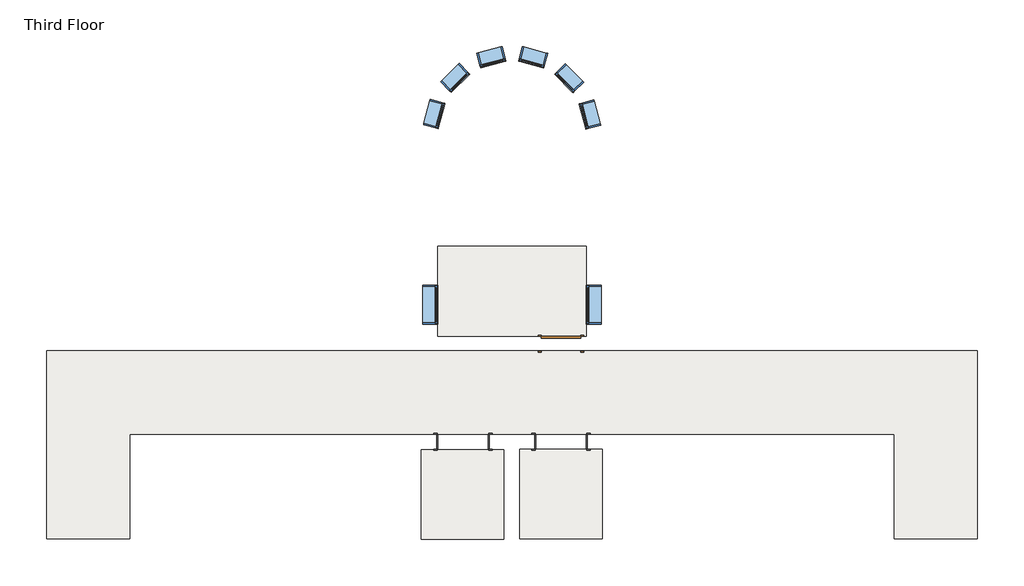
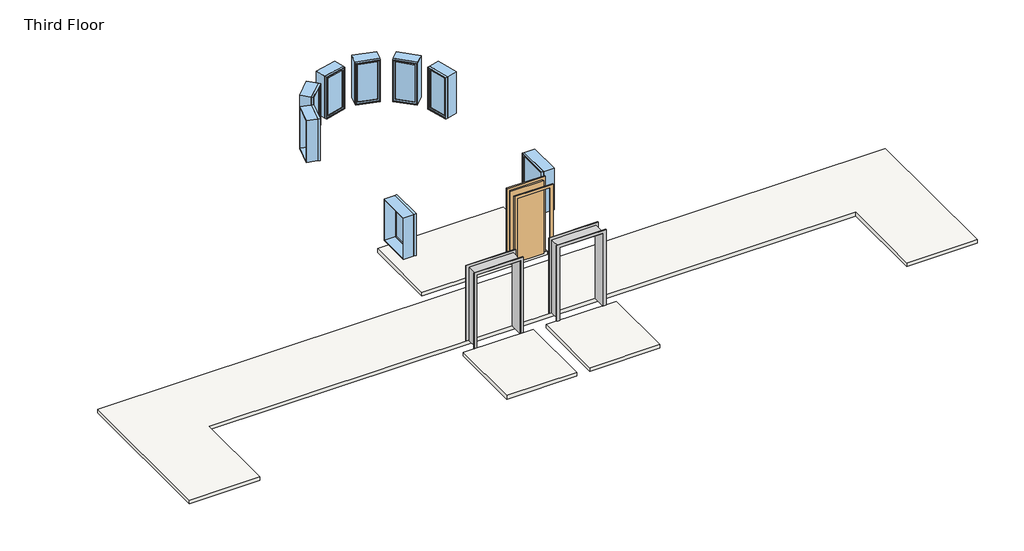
# One storey: 8 windows, 2 proxies, 1 door, 1 slab.
"""IFC4 building model written with IfcOpenShell, lengths in millimetres."""

import ifcopenshell
import ifcopenshell.guid

model = None  # the IFC model being written
_history = None  # IfcOwnerHistory: only IFC2X3 demands one
_inside = {}  # id of a spatial element -> (the spatial element, [elements in it])
_under = {}  # id of a project, library or spatial element -> (it, [spatial elements below it])
_declared = {}  # id of a project -> (the project, [libraries it declares])
_typed = {}  # id of a type object -> (the type object, [elements of that type])
_made_of = {}  # id of a material, layer set ... -> (it, [elements and type objects made of it])


def new_model(schema):
    """Start an empty IFC model of exactly this schema.

    Asked for "IFC4X3", IfcOpenShell would pick the latest addendum, in which some entities
    have other attributes; the version numbers below select the first issue.
    IFC2X3 requires an IfcOwnerHistory on every rooted entity: one is made here for all.
    """
    global model, _history
    if schema == "IFC4X3":
        model = ifcopenshell.file(schema_version=(4, 3, 0, 0))
    else:
        model = ifcopenshell.file(schema=schema)
    _inside.clear()
    _under.clear()
    _declared.clear()
    _typed.clear()
    _made_of.clear()
    _history = None
    if model.schema == "IFC2X3":
        org = make("IfcOrganization", Name="unknown")
        user = make(
            "IfcPersonAndOrganization",
            ThePerson=make("IfcPerson", FamilyName="unknown"),
            TheOrganization=org,
        )
        app = make(
            "IfcApplication",
            ApplicationDeveloper=org,
            Version="unknown",
            ApplicationFullName="unknown",
            ApplicationIdentifier="unknown",
        )
        _history = make(
            "IfcOwnerHistory",
            OwningUser=user,
            OwningApplication=app,
            ChangeAction="ADDED",
            CreationDate=0,
        )
    return model


def make(cls, **values):
    """One entity of the class cls with the attributes given. An attribute that is None is left unset."""
    return model.create_entity(
        cls, **{name: value for name, value in values.items() if value is not None}
    )


def rooted(cls, **values):
    """An entity with a GlobalId (a new one), such as an element, a storey or a relation."""
    return make(cls, GlobalId=ifcopenshell.guid.new(), OwnerHistory=_history, **values)


def si_unit(unit_type, name, prefix=None):
    """IfcSIUnit, for example si_unit("LENGTHUNIT", "METRE", prefix="MILLI")."""
    return make("IfcSIUnit", UnitType=unit_type, Prefix=prefix, Name=name)


def assignment(units):
    """IfcUnitAssignment: the units of a project."""
    return None if units is None else make("IfcUnitAssignment", Units=units)


def point(xyz):
    """IfcCartesianPoint."""
    return None if xyz is None else make("IfcCartesianPoint", Coordinates=xyz)


def direction(xyz):
    """IfcDirection."""
    return None if xyz is None else make("IfcDirection", DirectionRatios=xyz)


def frame(location, z_axis=None, x_axis=None):
    """IfcAxis2Placement3D, a coordinate frame: its origin and axes. An axis left out is left unset."""
    return make(
        "IfcAxis2Placement3D",
        Location=point(location),
        Axis=direction(z_axis),
        RefDirection=direction(x_axis),
    )


def origin():
    """The frame at (0, 0, 0) with its axes left unset."""
    return frame((0.0, 0.0, 0.0))


def origin_with_axes():
    """The frame at (0, 0, 0) with the z axis (0, 0, 1) and the x axis (1, 0, 0) written out."""
    return frame((0.0, 0.0, 0.0), z_axis=(0.0, 0.0, 1.0), x_axis=(1.0, 0.0, 0.0))


def place(relative_to, where):
    """IfcLocalPlacement: puts the frame where relative to a parent placement (None: the world)."""
    return make(
        "IfcLocalPlacement", PlacementRelTo=relative_to, RelativePlacement=where
    )


def context(
    kind, dimensions, precision=None, world=None, true_north=None, identifier=None
):
    """IfcGeometricRepresentationContext, for example the 3D "Model" context."""
    return make(
        "IfcGeometricRepresentationContext",
        ContextIdentifier=identifier,
        ContextType=kind,
        CoordinateSpaceDimension=dimensions,
        Precision=precision,
        WorldCoordinateSystem=world,
        TrueNorth=true_north,
    )


def project(units=None, contexts=None):
    """IfcProject with its units and contexts."""
    return rooted(
        "IfcProject",
        Name="project",
        RepresentationContexts=contexts,
        UnitsInContext=assignment(units),
    )


def spatial(cls, under=None, at=None, **own):
    """A site, building, storey or space (cls), placed at a placement, below another one or the project."""
    s = rooted(cls, ObjectPlacement=at, **own)
    if under is not None:
        _under.setdefault(under.id(), (under, []))[1].append(s)
    return s


def polyline(points):
    """IfcPolyline through the points."""
    return make("IfcPolyline", Points=[point(p) for p in points])


def outline(outer, holes=None, kind="AREA"):
    """IfcArbitraryClosedProfileDef: a profile drawn as a closed curve; with holes, ...WithVoids."""
    if holes is None:
        return make("IfcArbitraryClosedProfileDef", ProfileType=kind, OuterCurve=outer)
    return make(
        "IfcArbitraryProfileDefWithVoids",
        ProfileType=kind,
        OuterCurve=outer,
        InnerCurves=holes,
    )


def extrude(swept, where, along, depth):
    """IfcExtrudedAreaSolid: the profile swept, set in the frame where, extruded along a direction by depth."""
    return make(
        "IfcExtrudedAreaSolid",
        SweptArea=swept,
        Position=where,
        ExtrudedDirection=direction(along),
        Depth=depth,
    )


def faces_of(points, faces, orient=None, outer=None):
    """IfcFace entities. A face is a list of loops; a loop is a list of indices into points, from 0.

    orient and outer hold one flag for each loop. By default every Orientation is true, the
    first loop of a face is its IfcFaceOuterBound and the others are IfcFaceBound.
    """
    made = []
    for i, loops in enumerate(faces):
        bounds = []
        for j, loop in enumerate(loops):
            is_outer = j == 0 if outer is None else outer[i][j]
            bounds.append(
                make(
                    "IfcFaceOuterBound" if is_outer else "IfcFaceBound",
                    Bound=make("IfcPolyLoop", Polygon=[points[k] for k in loop]),
                    Orientation=True if orient is None else orient[i][j],
                )
            )
        made.append(make("IfcFace", Bounds=bounds))
    return made


def faceted_brep(points, faces, orient=None, outer=None, voids=None):
    """IfcFacetedBrep: a solid bounded by flat faces; with voids (closed shells), ...WithVoids."""
    shared = [point(p) for p in points]
    hull = make("IfcClosedShell", CfsFaces=faces_of(shared, faces, orient, outer))
    if voids is None:
        return make("IfcFacetedBrep", Outer=hull)
    return make(
        "IfcFacetedBrepWithVoids",
        Outer=hull,
        Voids=[
            make(cls, CfsFaces=faces_of(shared, fs, o, b)) for cls, fs, o, b in voids
        ],
    )


def shape(context_of_items, identifier, shape_type, items):
    """IfcShapeRepresentation: the items that make up one representation, for example the "Body"."""
    return make(
        "IfcShapeRepresentation",
        ContextOfItems=context_of_items,
        RepresentationIdentifier=identifier,
        RepresentationType=shape_type,
        Items=items,
    )


def source(mapping_origin, context_of_items, identifier, shape_type, items):
    """IfcRepresentationMap: a shape defined once, which mapped items show again and again."""
    return make(
        "IfcRepresentationMap",
        MappingOrigin=mapping_origin,
        MappedRepresentation=shape(context_of_items, identifier, shape_type, items),
    )


def transform(
    local_origin,
    x_axis=None,
    y_axis=None,
    z_axis=None,
    scale=None,
    scale2=None,
    scale3=None,
    uniform=True,
):
    """IfcCartesianTransformationOperator3D, or its non-uniform kind. x_axis, y_axis, z_axis: its Axis1, 2, 3."""
    if uniform:
        return make(
            "IfcCartesianTransformationOperator3D",
            Axis1=direction(x_axis),
            Axis2=direction(y_axis),
            LocalOrigin=point(local_origin),
            Scale=scale,
            Axis3=direction(z_axis),
        )
    return make(
        "IfcCartesianTransformationOperator3DnonUniform",
        Axis1=direction(x_axis),
        Axis2=direction(y_axis),
        LocalOrigin=point(local_origin),
        Scale=scale,
        Axis3=direction(z_axis),
        Scale2=scale2,
        Scale3=scale3,
    )


def mapped(mapping_source, mapping_target):
    """IfcMappedItem: shows the shape of a source again, moved by a transform."""
    return make(
        "IfcMappedItem", MappingSource=mapping_source, MappingTarget=mapping_target
    )


def made_of(thing, what):
    """Note that an element or type object is made of a material, layer set ...; save() writes the relation."""
    if what is not None:
        _made_of.setdefault(what.id(), (what, []))[1].append(thing)
    return thing


def element(
    cls,
    number,
    at=None,
    inside=None,
    cuts=None,
    type_object=None,
    material=None,
    context=None,
    identifier="Body",
    shape_type=None,
    held_by="IfcProductDefinitionShape",
    body=None,
    shapes=None,
    **own,
):
    """One element of the class cls, such as IfcWall. Its Tag is "e" and its number.

    at: its placement. inside: the storey or other place that contains it. cuts: it is an
    opening in that element (IfcRelVoidsElement). A single representation is given by context,
    identifier, shape_type and body (its items); several are given by shapes. held_by: the class
    of the entity that holds the representations. save() writes the other relations.
    """
    e = rooted(cls, Tag="e%d" % number, ObjectPlacement=at, **own)
    if body is not None:
        shapes = [shape(context, identifier, shape_type, body)]
    if shapes is not None:
        e.Representation = make(held_by, Representations=shapes)
    if inside is not None:
        _inside.setdefault(inside.id(), (inside, []))[1].append(e)
    if cuts is not None:
        rooted(
            "IfcRelVoidsElement", RelatingBuildingElement=cuts, RelatedOpeningElement=e
        )
    if type_object is not None:
        _typed.setdefault(type_object.id(), (type_object, []))[1].append(e)
    return made_of(e, material)


def aggregate(whole, parts):
    """IfcRelAggregates: a whole, such as a stair, and the parts it consists of."""
    return rooted("IfcRelAggregates", RelatingObject=whole, RelatedObjects=parts)


def save(model, path):
    """Write the relations noted so far, then the file.

    IfcRelAggregates (storeys below a building ...), IfcRelContainedInSpatialStructure (elements
    in a storey), IfcRelDefinesByType, IfcRelAssociatesMaterial and IfcRelDeclares: one each for
    every whole, place, type object, material and project.
    """
    for whole, parts in _under.values():
        aggregate(whole, parts)
    for where, things in _inside.values():
        rooted(
            "IfcRelContainedInSpatialStructure",
            RelatedElements=things,
            RelatingStructure=where,
        )
    for kind, things in _typed.values():
        rooted("IfcRelDefinesByType", RelatedObjects=things, RelatingType=kind)
    for what, things in _made_of.values():
        rooted("IfcRelAssociatesMaterial", RelatedObjects=things, RelatingMaterial=what)
    for by, libraries in _declared.values():
        rooted("IfcRelDeclares", RelatingContext=by, RelatedDefinitions=libraries)
    model.write(path)


def proxy_c3589814(model_context):
    return source(origin(), model_context, "Body", "SolidModel", [
        extrude(outline(polyline([(0.0, -611.4386567), (2127.25, -611.4386567), (2127.25, 595.0613433), (0.0, 595.0613433), (0.0, 671.2613433), (2203.45, 671.2613433), (2203.45, -687.6386567), (0.0, -687.6386567), (0.0, -611.4386567)])), frame((0.0, -195.2625, 0.0), z_axis=(0.0, 1.0, 0.0), x_axis=(0.0, 0.0, 1.0)), (0.0, 0.0, 1.0), 19.05),
        extrude(outline(polyline([(0.0, 671.2613433), (2209.8, 671.2613433), (2209.8, -687.6386567), (0.0, -687.6386567), (0.0, -611.4386567), (2127.25, -611.4386567), (2127.25, 595.0613433), (0.0, 595.0613433), (0.0, 671.2613433)])), frame((0.0, 176.2125, 0.0), z_axis=(0.0, 1.0, 0.0), x_axis=(0.0, 0.0, 1.0)), (0.0, 0.0, 1.0), 19.05),
        faceted_brep([(582.3613433, 176.2125, 0.0), (601.4113433, 176.2125, 0.0), (601.4113433, -176.2125, 0.0), (582.3613433, -176.2125, 0.0), (582.3613433, 176.2125, 2114.55), (601.4113433, 176.2125, 2133.6), (601.4113433, -176.2125, 2133.6), (582.3613433, -176.2125, 2114.55), (-598.7386567, 176.2125, 2114.55), (-617.7886567, 176.2125, 2133.6), (-617.7886567, -176.2125, 2133.6), (-598.7386567, -176.2125, 2114.55), (-598.7386567, 176.2125, 0.0), (-598.7386567, -176.2125, 0.0), (-617.7886567, -176.2125, 0.0), (-617.7886567, 176.2125, 0.0)], [[[0, 1, 2, 3]], [[1, 0, 4, 5]], [[2, 1, 5, 6]], [[3, 2, 6, 7]], [[0, 3, 7, 4]], [[5, 4, 8, 9]], [[6, 5, 9, 10]], [[7, 6, 10, 11]], [[4, 7, 11, 8]], [[12, 13, 14, 15]], [[9, 8, 12, 15]], [[10, 9, 15, 14]], [[11, 10, 14, 13]], [[8, 11, 13, 12]]]),
    ])


def door_632be17d(model_context):
    return source(origin(), model_context, "Body", "SweptSolid", [
        extrude(outline(polyline([(2209.8, -533.4), (0.0, -533.4), (0.0, -457.2), (2133.6, -457.2), (2133.6, 457.2), (0.0, 457.2), (0.0, 533.4), (2209.8, 533.4), (2209.8, -533.4)])), frame((0.0, 176.2125, 0.0), z_axis=(0.0, 1.0, 0.0), x_axis=(0.0, 0.0, 1.0)), (0.0, 0.0, 1.0), 25.4),
        extrude(outline(polyline([(2209.8, 533.4), (2209.8, -533.4), (0.0, -533.4), (0.0, -457.2), (2133.6, -457.2), (2133.6, 457.2), (0.0, 457.2), (0.0, 533.4), (2209.8, 533.4)])), frame((0.0, -201.6125, 0.0), z_axis=(0.0, 1.0, 0.0), x_axis=(0.0, 0.0, 1.0)), (0.0, 0.0, 1.0), 25.4),
        extrude(outline(polyline([(457.2, 125.4125), (-457.2, 125.4125), (-457.2, 176.2125), (457.2, 176.2125), (457.2, 125.4125)])), origin_with_axes(), (0.0, 0.0, 1.0), 2133.6),
    ])


def window_60baf983(model_context):
    return source(origin(), model_context, "Body", "SweptSolid", [
        extrude(outline(polyline([(203.2, 128.5875), (-279.4, 128.5875), (-279.4, 141.2875), (203.2, 141.2875), (203.2, 128.5875)])), frame((0.0, 0.0, 977.9), z_axis=(0.0, 0.0, 1.0), x_axis=(1.0, 0.0, 0.0)), (0.0, 0.0, 1.0), 1092.2),
        extrude(outline(polyline([(2114.55, -323.85), (933.45, -323.85), (933.45, 247.65), (2114.55, 247.65), (2114.55, -323.85)]), holes=[polyline([(2070.1, -279.4), (2070.1, 203.2), (977.9, 203.2), (977.9, -279.4), (2070.1, -279.4)])]), frame((0.0, 112.7125, 0.0), z_axis=(0.0, 1.0, 0.0), x_axis=(0.0, 0.0, 1.0)), (0.0, 0.0, 1.0), 44.45),
        extrude(outline(polyline([(2133.6, -342.9), (914.4, -342.9), (914.4, 266.7), (2133.6, 266.7), (2133.6, -342.9)]), holes=[polyline([(2101.85, -311.15), (2101.85, 234.95), (946.15, 234.95), (946.15, -311.15), (2101.85, -311.15)])]), frame((0.0, -176.2125, 0.0), z_axis=(0.0, 1.0, 0.0), x_axis=(0.0, 0.0, 1.0)), (0.0, 0.0, 1.0), 288.925),
        extrude(outline(polyline([(2133.6, 266.7), (2133.6, -342.9), (914.4, -342.9), (914.4, 266.7), (2133.6, 266.7)]), holes=[polyline([(2114.55, 247.65), (933.45, 247.65), (933.45, -323.85), (2114.55, -323.85), (2114.55, 247.65)])]), frame((0.0, 112.7125, 0.0), z_axis=(0.0, 1.0, 0.0), x_axis=(0.0, 0.0, 1.0)), (0.0, 0.0, 1.0), 63.5),
    ])


def window_15c49d37(model_context):
    return source(origin(), model_context, "Body", "SweptSolid", [
        extrude(outline(polyline([(355.6, 128.5875), (-431.8, 128.5875), (-431.8, 141.2875), (355.6, 141.2875), (355.6, 128.5875)])), frame((0.0, 0.0, 977.9), z_axis=(0.0, 0.0, 1.0), x_axis=(1.0, 0.0, 0.0)), (0.0, 0.0, 1.0), 1092.2),
        extrude(outline(polyline([(2114.55, -476.25), (933.45, -476.25), (933.45, 400.05), (2114.55, 400.05), (2114.55, -476.25)]), holes=[polyline([(2070.1, -431.8), (2070.1, 355.6), (977.9, 355.6), (977.9, -431.8), (2070.1, -431.8)])]), frame((0.0, 112.7125, 0.0), z_axis=(0.0, 1.0, 0.0), x_axis=(0.0, 0.0, 1.0)), (0.0, 0.0, 1.0), 44.45),
        extrude(outline(polyline([(2133.6, -495.3), (914.4, -495.3), (914.4, 419.1), (2133.6, 419.1), (2133.6, -495.3)]), holes=[polyline([(2101.85, -463.55), (2101.85, 387.35), (946.15, 387.35), (946.15, -463.55), (2101.85, -463.55)])]), frame((0.0, -176.2125, 0.0), z_axis=(0.0, 1.0, 0.0), x_axis=(0.0, 0.0, 1.0)), (0.0, 0.0, 1.0), 288.925),
        extrude(outline(polyline([(2133.6, 419.1), (2133.6, -495.3), (914.4, -495.3), (914.4, 419.1), (2133.6, 419.1)]), holes=[polyline([(2114.55, 400.05), (933.45, 400.05), (933.45, -476.25), (2114.55, -476.25), (2114.55, 400.05)])]), frame((0.0, 112.7125, 0.0), z_axis=(0.0, 1.0, 0.0), x_axis=(0.0, 0.0, 1.0)), (0.0, 0.0, 1.0), 63.5),
    ])


model = new_model("IFC4")

# Units and contexts
model_context = context("Model", 3, world=origin())
ifc_project = project(units=[si_unit("LENGTHUNIT", "METRE", prefix="MILLI")], contexts=[model_context])

# Site, building, storey
site = spatial("IfcSite", under=ifc_project)
building = spatial("IfcBuilding", under=site)
storey = spatial("IfcBuildingStorey", under=building, Name="Third Floor", Elevation=6096.0)

# Proxies
placement = place(None, origin())
proxy_shape = proxy_c3589814(model_context)
element("IfcBuildingElementProxy", 1, Name="Opening-Cased : 48\" x 84\"", ObjectType="Opening-Cased : 48\" x 84\"", at=placement, inside=storey, context=model_context, shape_type="MappedRepresentation", body=[
    mapped(proxy_shape, transform((-7396.8036255, 2429.9758812, 6096.0), x_axis=(-1.0, 0.0, 0.0), y_axis=(0.0, -1.0, 0.0), z_axis=(0.0, 0.0, 1.0))),
])
element("IfcBuildingElementProxy", 2, Name="Opening-Cased : 48\" x 84\"", ObjectType="Opening-Cased : 48\" x 84\"", at=placement, inside=storey, context=model_context, shape_type="MappedRepresentation", body=[
    mapped(proxy_shape, transform((-5110.8036255, 2429.9758812, 6096.0), x_axis=(-1.0, 0.0, 0.0), y_axis=(0.0, -1.0, 0.0), z_axis=(0.0, 0.0, 1.0))),
])

# Door
door_shape = door_632be17d(model_context)
element("IfcDoor", 3, ObjectType="Single-Flush : 36\" x 84\"", at=placement, inside=storey, context=model_context, shape_type="MappedRepresentation", body=[
    mapped(door_shape, transform((-5102.6149687, 4715.9758812, 6096.0), x_axis=(1.0, 0.0, 0.0), y_axis=(0.0, 1.0, 0.0), z_axis=(0.0, 0.0, 1.0))),
])

# Slab
element("IfcSlab", 4, ObjectType="LW Concrete on Metal Deck", at=placement, inside=storey, context=model_context, shape_type="SweptSolid", body=[
    extrude(outline(polyline([(-17118.4024687, 4552.4633812), (4627.1725313, 4552.4633812), (4627.1725313, 167.7883812), (2680.8975313, 167.7883812), (2680.8975313, 2606.1883812), (-15172.1274687, 2606.1883812), (-15172.1274687, 167.7883812), (-17118.4024687, 167.7883812), (-17118.4024687, 4552.4633812)])), frame((0.0, 0.0, 5991.225), z_axis=(0.0, 0.0, 1.0), x_axis=(1.0, 0.0, 0.0)), (0.0, 0.0, 1.0), 104.775),
    extrude(outline(polyline([(-8368.1024687, 155.0883812), (-8368.1024687, 2237.8883812), (-6437.7024687, 2237.8883812), (-6437.7024687, 155.0883812), (-8368.1024687, 155.0883812)])), frame((0.0, 0.0, 5991.225), z_axis=(0.0, 0.0, 1.0), x_axis=(1.0, 0.0, 0.0)), (0.0, 0.0, 1.0), 104.775),
    extrude(outline(polyline([(-4135.8274687, 2253.7633812), (-4135.8274687, 167.7883812), (-6069.4024687, 167.7883812), (-6069.4024687, 2253.7633812), (-4135.8274687, 2253.7633812)])), frame((0.0, 0.0, 5991.225), z_axis=(0.0, 0.0, 1.0), x_axis=(1.0, 0.0, 0.0)), (0.0, 0.0, 1.0), 104.775),
    extrude(outline(polyline([(-4516.8274687, 7001.9758812), (-4516.8274687, 4892.1883812), (-7974.4024687, 4892.1883812), (-7974.4024687, 7001.9758812), (-4516.8274687, 7001.9758812)])), frame((0.0, 0.0, 5991.225), z_axis=(0.0, 0.0, 1.0), x_axis=(1.0, 0.0, 0.0)), (0.0, 0.0, 1.0), 104.775),
])

# Windows
window_shape = window_60baf983(model_context)
element("IfcWindow", 5, ObjectType="Fixed : 24\" x 48\"", at=placement, inside=storey, context=model_context, shape_type="MappedRepresentation", body=[
    mapped(window_shape, transform((-8072.5076754, 10048.7859441, 6096.0), x_axis=(-0.2617614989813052, -0.9651325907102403, 0.0), y_axis=(0.9651325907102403, -0.2617614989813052, 0.0), z_axis=(0.0, 0.0, 1.0))),
])
element("IfcWindow", 6, ObjectType="Fixed : 24\" x 48\"", at=placement, inside=storey, context=model_context, shape_type="MappedRepresentation", body=[
    mapped(window_shape, transform((-7599.7454312, 10901.1385333, 6096.0), x_axis=(-0.7092584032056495, -0.7049485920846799, 0.0), y_axis=(0.7049485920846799, -0.7092584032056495, 0.0), z_axis=(0.0, 0.0, 1.0))),
])
element("IfcWindow", 7, ObjectType="Fixed : 24\" x 48\"", at=placement, inside=storey, context=model_context, shape_type="MappedRepresentation", body=[
    mapped(window_shape, transform((-6764.1450232, 11402.9164066, 6096.0), x_axis=(-0.96671009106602, -0.25587418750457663, 0.0), y_axis=(0.25587418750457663, -0.96671009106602, 0.0), z_axis=(0.0, 0.0, 1.0))),
])
element("IfcWindow", 8, ObjectType="Fixed : 24\" x 48\"", at=placement, inside=storey, context=model_context, shape_type="MappedRepresentation", body=[
    mapped(window_shape, transform((-5789.6049059, 11419.6685878, 6096.0), x_axis=(-0.9651325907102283, 0.2617614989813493, 0.0), y_axis=(-0.2617614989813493, -0.9651325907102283, 0.0), z_axis=(0.0, 0.0, 1.0))),
])
element("IfcWindow", 9, ObjectType="Fixed : 24\" x 48\"", at=placement, inside=storey, context=model_context, shape_type="MappedRepresentation", body=[
    mapped(window_shape, transform((-4937.2523166, 10946.9063437, 6096.0), x_axis=(-0.7049485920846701, 0.7092584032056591, 0.0), y_axis=(-0.7092584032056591, -0.7049485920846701, 0.0), z_axis=(0.0, 0.0, 1.0))),
])
element("IfcWindow", 10, ObjectType="Fixed : 24\" x 48\"", at=placement, inside=storey, context=model_context, shape_type="MappedRepresentation", body=[
    mapped(window_shape, transform((-4435.4744434, 10111.3059357, 6096.0), x_axis=(-0.25587418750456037, 0.9667100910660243, 0.0), y_axis=(-0.9667100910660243, -0.25587418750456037, 0.0), z_axis=(0.0, 0.0, 1.0))),
])
window_2_shape = window_15c49d37(model_context)
element("IfcWindow", 11, ObjectType="Fixed : 36\" x 48\"", at=placement, inside=storey, context=model_context, shape_type="MappedRepresentation", body=[
    mapped(window_2_shape, transform((-8150.6149687, 5592.2758812, 6096.0), x_axis=(0.0, -1.0, 0.0), y_axis=(1.0, 0.0, 0.0), z_axis=(0.0, 0.0, 1.0))),
])
element("IfcWindow", 12, ObjectType="Fixed : 36\" x 48\"", at=placement, inside=storey, context=model_context, shape_type="MappedRepresentation", body=[
    mapped(window_2_shape, transform((-4340.6149687, 5668.4758812, 6096.0), x_axis=(0.0, 1.0, 0.0), y_axis=(-1.0, 0.0, 0.0), z_axis=(0.0, 0.0, 1.0))),
])

save(model, "model.ifc")
